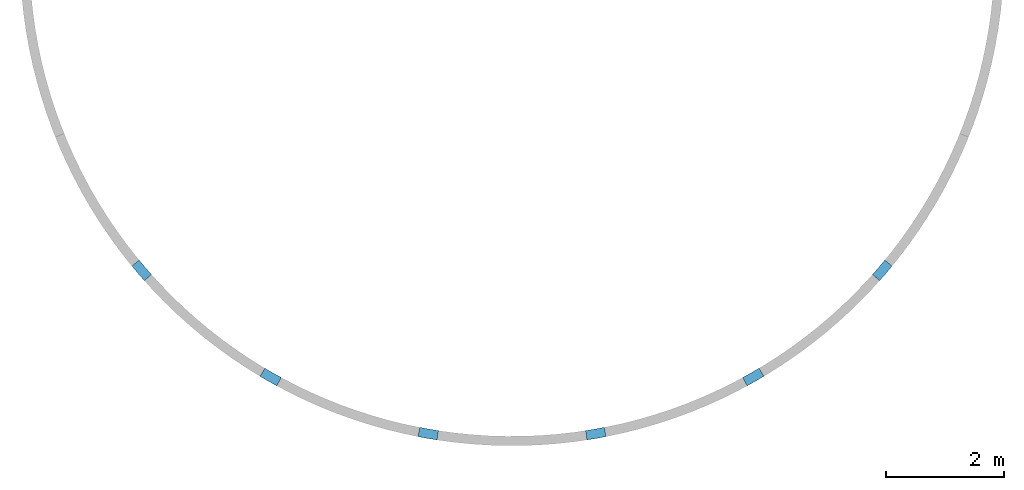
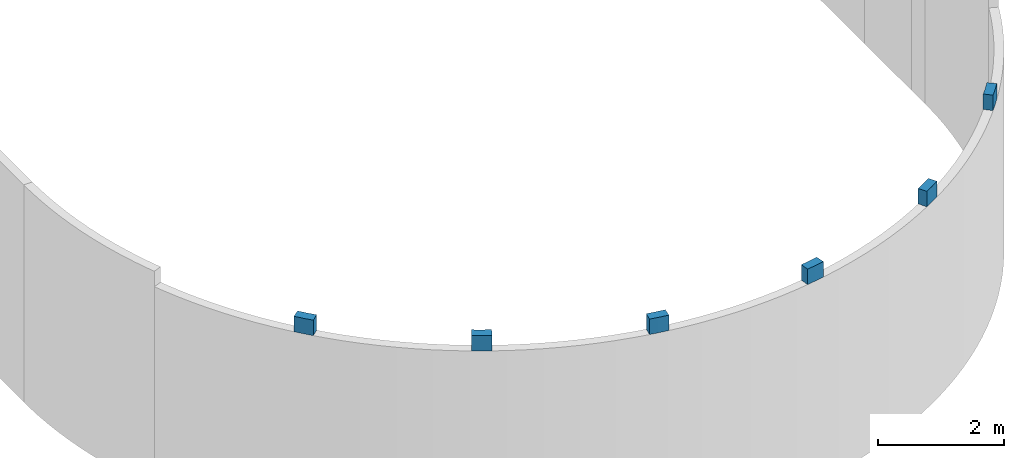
# One storey, part 3 of 3: 6 walls.
"""IFC4 building model written with IfcOpenShell, lengths in millimetres."""

from ifc_helpers import new_model, entity, si_unit, converted_unit, derived_unit, direction, frame, origin_with_axes, place, context, subcontext, project, spatial, polygons, material, constituent, constituent_set, type_object, element, save


model = new_model("IFC4")

# Units and contexts
model_context = context("Model", 3, precision=0.01, world=origin_with_axes(), true_north=direction((0.0, 1.0)))
body_context = subcontext(model_context, "Body", "Model", "MODEL_VIEW")
ifc_project = project(units=[si_unit("LENGTHUNIT", "METRE", prefix="MILLI"), si_unit("AREAUNIT", "SQUARE_METRE"), si_unit("VOLUMEUNIT", "CUBIC_METRE"), converted_unit("PLANEANGLEUNIT", "DEGREE", entity("IfcPlaneAngleMeasure", 0.0174532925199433), si_unit("PLANEANGLEUNIT", "RADIAN"), dimensions=[0, 0, 0, 0, 0, 0, 0]), converted_unit("TIMEUNIT", "Year", entity("IfcTimeMeasure", 31557600.0), si_unit("TIMEUNIT", "SECOND"), dimensions=[0, 0, 1, 0, 0, 0, 0]), si_unit("MASSUNIT", "GRAM", prefix="KILO"), si_unit("THERMODYNAMICTEMPERATUREUNIT", "DEGREE_CELSIUS"), si_unit("LUMINOUSINTENSITYUNIT", "LUMEN"), si_unit("ENERGYUNIT", "JOULE", prefix="MEGA"), derived_unit("THERMALCONDUCTANCEUNIT", [(si_unit("POWERUNIT", "WATT"), 1), (si_unit("LENGTHUNIT", "METRE"), -1), (si_unit("THERMODYNAMICTEMPERATUREUNIT", "KELVIN"), -1)]), derived_unit("SPECIFICHEATCAPACITYUNIT", [(si_unit("ENERGYUNIT", "JOULE"), 1), (si_unit("MASSUNIT", "GRAM", prefix="KILO"), -1), (si_unit("THERMODYNAMICTEMPERATUREUNIT", "KELVIN"), -1)]), derived_unit("MASSDENSITYUNIT", [(si_unit("MASSUNIT", "GRAM", prefix="KILO"), 1), (si_unit("VOLUMEUNIT", "CUBIC_METRE"), -1)])], contexts=[model_context])

# Site, building, storey
site_placement = place(None, origin_with_axes())
site = spatial("IfcSite", under=ifc_project, at=site_placement, Name="Exteriér", CompositionType="ELEMENT")
building_placement = place(site_placement, origin_with_axes())
building = spatial("IfcBuilding", under=site, at=building_placement, Name="Univerzitní lezecké centrum", CompositionType="ELEMENT")
storey_placement = place(building_placement, frame((0.0, 0.0, -3350.0), z_axis=(0.0, 0.0, 1.0), x_axis=(1.0, 0.0, 0.0)))
storey = spatial("IfcBuildingStorey", under=building, at=storey_placement, Name="1.PP", CompositionType="ELEMENT", Elevation=-3350.0)

# Walls
ifc_material = material(Name="Tepelná izolace - XPS - obvodová izolace")
ifc_constituent_1 = constituent(ifc_material, Name="Tepelná izolace - XPS - obvodová izolace")
ifc_constituent_set_1 = constituent_set(constituents=[ifc_constituent_1], Name="Obvodová tepelná izolace podzemní")
wall_type = type_object("IfcWallType", Name="Obvodová tepelná izolace podzemní 160", PredefinedType="NOTDEFINED")
wall_1_placement = place(storey_placement, frame((8575.797129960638, -5750.9373790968, 3350.0), z_axis=(0.0, 0.0, 1.0), x_axis=(0.6647492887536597, 0.7470665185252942, 0.0)))
element("IfcWall", 1, at=wall_1_placement, inside=storey, type_object=wall_type, material=ifc_constituent_set_1, Name="St02", PredefinedType="NOTDEFINED", context=body_context, shape_type="Tessellation", body=[
    polygons([(146.7397295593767, -160.0000000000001, 0.0), (146.7397295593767, -160.0000000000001, 299.9999999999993), (0.0, -160.0000000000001, 299.9999999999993), (0.0, -160.0000000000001, 0.0), (327.8083760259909, -153.570593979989, 0.0), (327.8083760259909, -153.570593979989, 299.9999999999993), (143.9313136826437, 0.0, 299.9999999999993), (0.0, 0.0, 299.9999999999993), (0.0, 0.0, 0.0), (143.9313136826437, 0.0, 0.0), (321.5345315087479, 6.306355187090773, 0.0), (321.5345315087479, 6.306355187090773, 299.9999999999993)], [[[1, 2, 3, 4]], [[5, 6, 2, 1]], [[2, 7, 8, 3]], [[4, 3, 8, 9]], [[10, 1, 4, 9]], [[5, 11, 12, 6]], [[6, 12, 7, 2]], [[11, 5, 1, 10]], [[7, 10, 9, 8]], [[12, 11, 10, 7]]], closed=True),
])
ifc_constituent_2 = constituent(ifc_material, Name="Tepelná izolace - XPS - obvodová izolace")
ifc_constituent_set_2 = constituent_set(constituents=[ifc_constituent_2], Name="Obvodová tepelná izolace podzemní")
wall_2_placement = place(storey_placement, frame((6369.22767320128, -7502.665775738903, 3350.0), z_axis=(0.0, 0.0, 1.0), x_axis=(0.8783746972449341, 0.4779726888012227, 0.0)))
element("IfcWall", 2, at=wall_2_placement, inside=storey, type_object=wall_type, material=ifc_constituent_set_2, Name="St02", PredefinedType="NOTDEFINED", context=body_context, shape_type="Tessellation", body=[
    polygons([(146.7397295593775, -159.9999999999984, 0.0), (146.7397295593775, -159.9999999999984, 299.9999999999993), (0.0, -159.9999999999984, 299.9999999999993), (0.0, -159.9999999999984, 0.0), (327.80837602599, -153.5705939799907, 0.0), (327.80837602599, -153.5705939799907, 299.9999999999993), (143.9313136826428, 0.0, 299.9999999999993), (0.0, 0.0, 299.9999999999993), (0.0, 0.0, 0.0), (143.9313136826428, 0.0, 0.0), (321.5345315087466, 6.306355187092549, 0.0), (321.5345315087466, 6.306355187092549, 299.9999999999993)], [[[1, 2, 3, 4]], [[5, 6, 2, 1]], [[2, 7, 8, 3]], [[4, 3, 8, 9]], [[10, 1, 4, 9]], [[5, 11, 12, 6]], [[6, 12, 7, 2]], [[11, 5, 1, 10]], [[7, 10, 9, 8]], [[12, 11, 10, 7]]], closed=True),
])
ifc_constituent_3 = constituent(ifc_material, Name="Tepelná izolace - XPS - obvodová izolace")
ifc_constituent_set_3 = constituent_set(constituents=[ifc_constituent_3], Name="Obvodová tepelná izolace podzemní")
wall_3_placement = place(storey_placement, frame((-3884.95201332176, -5506.751632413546, 3350.0), z_axis=(0.0, 0.0, 1.0), x_axis=(0.634969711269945, -0.7725370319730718, 0.0)))
element("IfcWall", 3, at=wall_3_placement, inside=storey, type_object=wall_type, material=ifc_constituent_set_3, Name="St02", PredefinedType="NOTDEFINED", context=body_context, shape_type="Tessellation", body=[
    polygons([(146.7397295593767, -160.0000000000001, 0.0), (146.7397295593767, -160.0000000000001, 299.9999999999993), (0.0, -160.0000000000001, 299.9999999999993), (0.0, -160.0000000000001, 0.0), (327.8083760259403, -153.5705939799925, 0.0), (327.8083760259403, -153.5705939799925, 299.9999999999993), (143.931313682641, 0.0, 299.9999999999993), (0.0, 0.0, 299.9999999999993), (0.0, 0.0, 0.0), (143.931313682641, 0.0, 0.0), (321.5345315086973, 6.306355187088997, 0.0), (321.5345315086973, 6.306355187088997, 299.9999999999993)], [[[1, 2, 3, 4]], [[5, 6, 2, 1]], [[2, 7, 8, 3]], [[4, 3, 8, 9]], [[10, 1, 4, 9]], [[5, 11, 12, 6]], [[6, 12, 7, 2]], [[11, 5, 1, 10]], [[7, 10, 9, 8]], [[12, 11, 10, 7]]], closed=True),
])
ifc_constituent_4 = constituent(ifc_material, Name="Tepelná izolace - XPS - obvodová izolace")
ifc_constituent_set_4 = constituent_set(constituents=[ifc_constituent_4], Name="Obvodová tepelná izolace podzemní")
wall_4_placement = place(storey_placement, frame((-1748.703201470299, -7343.581618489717, 3350.0), z_axis=(0.0, 0.0, 1.0), x_axis=(0.8589741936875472, -0.5120188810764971, 0.0)))
element("IfcWall", 4, at=wall_4_placement, inside=storey, type_object=wall_type, material=ifc_constituent_set_4, Name="St02", PredefinedType="NOTDEFINED", context=body_context, shape_type="Tessellation", body=[
    polygons([(146.7397295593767, -160.0000000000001, 0.0), (146.7397295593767, -160.0000000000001, 299.9999999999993), (0.0, -160.0000000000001, 299.9999999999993), (0.0, -160.0000000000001, 0.0), (327.80837602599, -153.5705939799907, 0.0), (327.80837602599, -153.5705939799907, 299.9999999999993), (143.9313136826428, 0.0, 299.9999999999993), (0.0, 0.0, 299.9999999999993), (0.0, 0.0, 0.0), (143.9313136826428, 0.0, 0.0), (321.5345315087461, 6.306355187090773, 0.0), (321.5345315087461, 6.306355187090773, 299.9999999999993)], [[[1, 2, 3, 4]], [[5, 6, 2, 1]], [[2, 7, 8, 3]], [[4, 3, 8, 9]], [[10, 1, 4, 9]], [[5, 11, 12, 6]], [[6, 12, 7, 2]], [[11, 5, 1, 10]], [[7, 10, 9, 8]], [[12, 11, 10, 7]]], closed=True),
])
ifc_constituent_5 = constituent(ifc_material, Name="Tepelná izolace - XPS - obvodová izolace")
ifc_constituent_set_5 = constituent_set(constituents=[ifc_constituent_5], Name="Obvodová tepelná izolace podzemní")
wall_5_placement = place(storey_placement, frame((883.1706232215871, -8348.937930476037, 3350.0), z_axis=(0.0, 0.0, 1.0), x_axis=(0.9815786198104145, -0.1910586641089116, 0.0)))
element("IfcWall", 5, at=wall_5_placement, inside=storey, type_object=wall_type, material=ifc_constituent_set_5, Name="St02", PredefinedType="NOTDEFINED", context=body_context, shape_type="Tessellation", body=[
    polygons([(146.7397295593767, -160.0000000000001, 0.0), (146.7397295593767, -160.0000000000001, 299.9999999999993), (0.0, -160.0000000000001, 299.9999999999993), (0.0, -160.0000000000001, 0.0), (327.8083760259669, -153.5705939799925, 0.0), (327.8083760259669, -153.5705939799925, 299.9999999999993), (143.9313136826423, 0.0, 299.9999999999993), (0.0, 0.0, 299.9999999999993), (0.0, 0.0, 0.0), (143.9313136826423, 0.0, 0.0), (321.534531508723, 6.306355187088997, 0.0), (321.534531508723, 6.306355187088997, 299.9999999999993)], [[[1, 2, 3, 4]], [[5, 6, 2, 1]], [[2, 7, 8, 3]], [[4, 3, 8, 9]], [[10, 1, 4, 9]], [[5, 11, 12, 6]], [[6, 12, 7, 2]], [[11, 5, 1, 10]], [[7, 10, 9, 8]], [[12, 11, 10, 7]]], closed=True),
])
ifc_constituent_6 = constituent(ifc_material, Name="Tepelná izolace - XPS - obvodová izolace")
ifc_constituent_set_6 = constituent_set(constituents=[ifc_constituent_6], Name="Obvodová tepelná izolace podzemní")
wall_6_placement = place(storey_placement, frame((3699.986758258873, -8404.13799901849, 3350.0), z_axis=(0.0, 0.0, 1.0), x_axis=(0.9883103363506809, 0.1524554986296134, 0.0)))
element("IfcWall", 6, at=wall_6_placement, inside=storey, type_object=wall_type, material=ifc_constituent_set_6, Name="St02", PredefinedType="NOTDEFINED", context=body_context, shape_type="Tessellation", body=[
    polygons([(146.7397295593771, -160.0000000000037, 0.0), (146.7397295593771, -160.0000000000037, 299.9999999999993), (0.0, -160.0000000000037, 299.9999999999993), (0.0, -160.0000000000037, 0.0), (327.8083760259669, -153.5705939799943, 0.0), (327.8083760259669, -153.5705939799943, 299.9999999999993), (143.9313136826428, 0.0, 299.9999999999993), (0.0, 0.0, 299.9999999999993), (0.0, 0.0, 0.0), (143.9313136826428, 0.0, 0.0), (321.534531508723, 6.306355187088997, 0.0), (321.534531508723, 6.306355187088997, 299.9999999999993)], [[[1, 2, 3, 4]], [[5, 6, 2, 1]], [[2, 7, 8, 3]], [[4, 3, 8, 9]], [[10, 1, 4, 9]], [[5, 11, 12, 6]], [[6, 12, 7, 2]], [[11, 5, 1, 10]], [[7, 10, 9, 8]], [[12, 11, 10, 7]]], closed=True),
])

save(model, "model.ifc")
